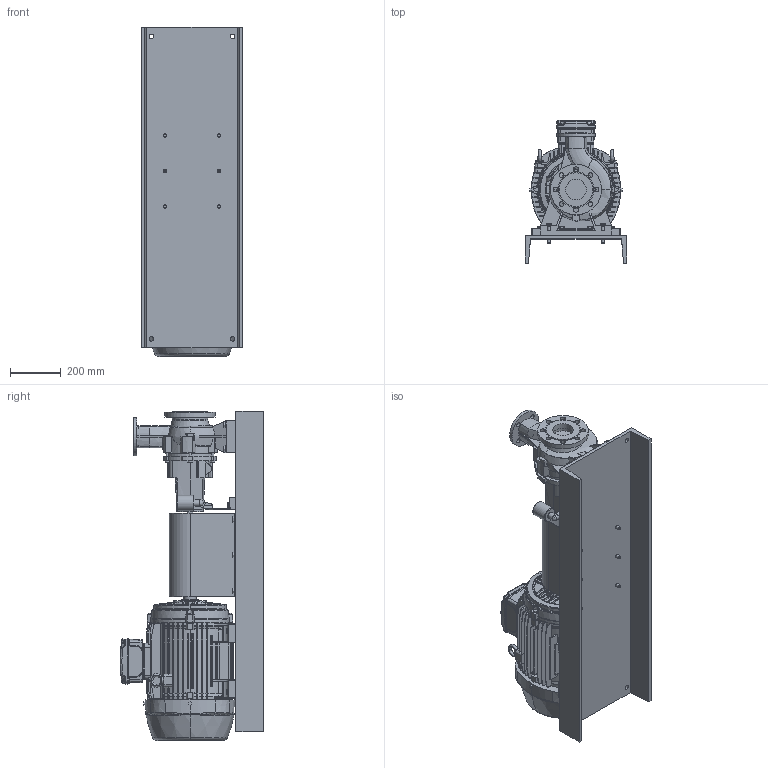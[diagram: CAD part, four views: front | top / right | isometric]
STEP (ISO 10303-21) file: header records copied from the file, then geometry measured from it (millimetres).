
FILE_DESCRIPTION((''),'2;1');
FILE_NAME('C:\Users\Freek de With\Inventor\Inventor 2011\100 - FREEK\GRABCAD\Pump - KSB Etanorm 65-40-250 - emotor 180M.stp','2013-12-02T20:59:33',('Freek de With'),(''),'Autodesk Inventor 2011','Autodesk Inventor 2011','');
FILE_SCHEMA(('AUTOMOTIVE_DESIGN { 1 0 10303 214 1 1 1 1 }'));
Length unit declared in the file: millimetre
Products named in the file (1): 1314-310
Bounding box: 400 x 564.5 x 1295 mm (x, y, z)
Volume: 69701027.2 mm3; surface area: 4214329.5 mm2
Topology: 2 solids, 3 shells, 2949 faces, 7835 edges, 4996 vertices
Faces by surface type: plane 1298, cylinder 600, cone 366, torus 324, bspline 286, sphere 75
Full cylindrical faces by diameter (mm): 8 x9, 11.053 x16, 12 x17, 13 x16, 14 x12, 16 x6, 17.2 x16, 18 x8, 19 x8, 24 x17, 25 x3, 40 x2, 60 x1, 65 x1, 80 x2, 82 x1, 105 x1, 132 x1, 139.88 x2, 150 x1, 187 x1, 200 x1
Entity records: 196235 total; most frequent: CARTESIAN_POINT 123509, ORIENTED_EDGE 15232, DIRECTION 13709, EDGE_CURVE 7616, AXIS2_PLACEMENT_3D 5292, VERTEX_POINT 4971, EDGE_LOOP 3341, VECTOR 3125
